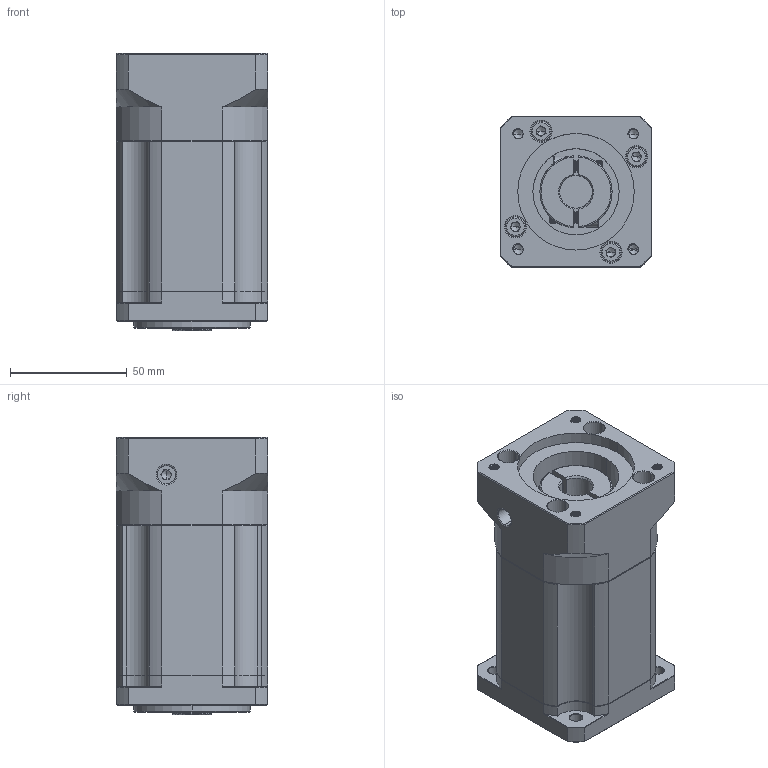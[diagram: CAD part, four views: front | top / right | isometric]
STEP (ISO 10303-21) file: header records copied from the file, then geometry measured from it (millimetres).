
FILE_DESCRIPTION (( 'STEP AP214' ), '1' );
FILE_NAME ('ZB060-K10-L3-P2-14-50-70-M5.step', '2023-08-16T07:12:58', ( '' ), ( '' ), 'SwSTEP 2.0', 'SolidWorks 2016', '' );
FILE_SCHEMA (( 'AUTOMOTIVE_DESIGN' ));
Length unit declared in the file: millimetre
Products named in the file (1): ZB060-K10-L3-P2-14-50-70-M5
Bounding box: 65 x 65 x 119 mm (x, y, z)
Volume: 382365.7 mm3; surface area: 61784.4 mm2
Topology: 6 solids, 6 shells, 2111 faces, 5678 edges, 3658 vertices
Faces by surface type: plane 1056, bspline 390, cylinder 354, cone 277, torus 34
Entity records: 111778 total; most frequent: CARTESIAN_POINT 38456, ORIENTED_EDGE 11300, DIRECTION 8986, EDGE_CURVE 5650, VERTEX_POINT 3658, VECTOR 3606, LINE 3606, AXIS2_PLACEMENT_3D 2690
